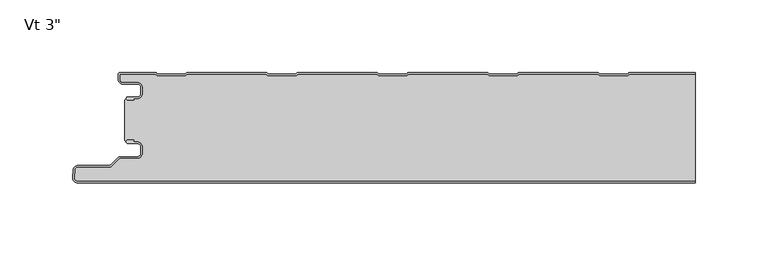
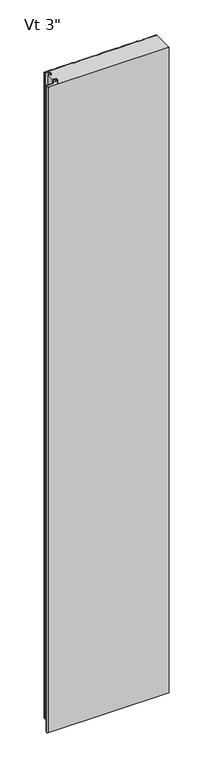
"""IFC4 building model written with IfcOpenShell, lengths in millimetres: plate geometry."""

from ifc_helpers import new_model, si_unit, point, frame, frame_2d, origin, origin_with_axes, place, context, project, spatial, polyline, circle_curve, trimmed, segment, composite_curve, outline, extrude, source, transform, mapped, element, save
from ifc_brep_helpers import plane_surface, cylinder_surface, revolved_surface, advanced_brep


def plate_366ad755(model_context):
    return source(origin(), model_context, "Body", "SolidModel", [
        advanced_brep(
        [(-194.568691, -17.0015405, 2400.0), (-195.5686883, -18.0015437, 2400.0), (-194.568691, -19.0015351, 2400.0), (-190.5684874, -19.0015351, 2400.0), (-190.5684874, -18.0015405, 2400.0), (-187.8762776, -18.0015405, 2400.0), (-184.5762819, -14.7015449, 2400.0), (-184.5762819, -10.3015536, 2400.0), (-187.8762774, -7.0015581, 2400.0), (-198.2962563, -7.0015581, 2400.0), (-200.0662505, -5.2315639, 2400.0), (-200.0662505, -1.0000163, 2400.0), (-175.5659738, -1.0000163, 2400.0), (-174.1803312, -2.2002553, 2400.0), (-154.8051649, -2.2002553, 2400.0), (-153.419532, -1.0000246, 2400.0), (-99.3661166, -1.0000246, 2400.0), (-97.9804836, -2.2002553, 2400.0), (-78.6053173, -2.2002553, 2400.0), (-77.2196844, -1.0000246, 2400.0), (-23.166269, -1.0000246, 2400.0), (-21.780636, -2.2002553, 2400.0), (-2.4054697, -2.2002553, 2400.0), (-1.0198368, -1.0000246, 2400.0), (53.0335786, -1.0000246, 2400.0), (54.4192116, -2.2002553, 2400.0), (73.7943779, -2.2002553, 2400.0), (75.1800108, -1.0000246, 2400.0), (129.2334262, -1.0000246, 2400.0), (130.6190592, -2.2002553, 2400.0), (149.9942255, -2.2002553, 2400.0), (151.3798584, -1.0000246, 2400.0), (196.5999998, -1.0000246, 2400.0), (196.5999998, -2.46e-05, 2400.0), (151.5290096, -2.46e-05, 2400.0), (150.6123927, -0.3418131, 2400.0), (149.6213451, -1.2002553, 2400.0), (130.9919396, -1.2002553, 2400.0), (130.000892, -0.3418131, 2400.0), (129.0842751, -2.46e-05, 2400.0), (75.329162, -2.46e-05, 2400.0), (74.4125451, -0.3418131, 2400.0), (73.4214975, -1.2002553, 2400.0), (54.792092, -1.2002553, 2400.0), (53.8010444, -0.3418131, 2400.0), (52.8844275, -2.46e-05, 2400.0), (-0.8706856, -2.46e-05, 2400.0), (-1.7873025, -0.3418131, 2400.0), (-2.7783501, -1.2002553, 2400.0), (-21.4077556, -1.2002553, 2400.0), (-22.3988032, -0.3418131, 2400.0), (-23.3154201, -2.46e-05, 2400.0), (-77.0705332, -2.46e-05, 2400.0), (-77.9871501, -0.3418131, 2400.0), (-78.9781977, -1.2002553, 2400.0), (-97.6076032, -1.2002553, 2400.0), (-98.5986508, -0.3418131, 2400.0), (-99.5152677, -2.46e-05, 2400.0), (-153.2703808, -2.46e-05, 2400.0), (-154.1869977, -0.3418131, 2400.0), (-155.1780453, -1.2002553, 2400.0), (-173.8074508, -1.2002553, 2400.0), (-174.7984984, -0.3418131, 2400.0), (-175.7152067, -2.46e-05, 2400.0), (-199.6662543, -1.63e-05, 2400.0), (-201.0662505, -1.4000124, 2400.0), (-201.0662505, -5.2315639, 2400.0), (-198.2962563, -8.0015581, 2400.0), (-187.8762774, -8.0015581, 2400.0), (-185.5762819, -10.3015536, 2400.0), (-185.5762819, -14.7015449, 2400.0), (-187.8762776, -17.0015405, 2400.0), (-194.568691, -17.0015405, 0.0), (-187.8762776, -17.0015405, 0.0), (-185.5762819, -14.7015449, 0.0), (-185.5762819, -10.3015536, 0.0), (-187.8762774, -8.0015581, 0.0), (-198.2962563, -8.0015581, 0.0), (-201.0662505, -5.2315639, 0.0), (-201.0662505, -1.4000124, 0.0), (-199.6662543, -1.63e-05, 0.0), (-175.7151153, -1.63e-05, 0.0), (-174.7984984, -0.3418131, 0.0), (-173.8074508, -1.2002553, 0.0), (-155.1780453, -1.2002553, 0.0), (-154.1869977, -0.3418131, 0.0), (-153.2703808, -2.46e-05, 0.0), (-99.5152677, -2.46e-05, 0.0), (-98.5986508, -0.3418131, 0.0), (-97.6076032, -1.2002553, 0.0), (-78.9781977, -1.2002553, 0.0), (-77.9871501, -0.3418131, 0.0), (-77.0705332, -2.46e-05, 0.0), (-23.3154201, -2.46e-05, 0.0), (-22.3988032, -0.3418131, 0.0), (-21.4077556, -1.2002553, 0.0), (-2.7783501, -1.2002553, 0.0), (-1.7873025, -0.3418131, 0.0), (-0.8706856, -2.46e-05, 0.0), (52.8844275, -2.46e-05, 0.0), (53.8010444, -0.3418131, 0.0), (54.792092, -1.2002553, 0.0), (73.4214975, -1.2002553, 0.0), (74.4125451, -0.3418131, 0.0), (75.329162, -2.46e-05, 0.0), (129.0842751, -2.46e-05, 0.0), (130.000892, -0.3418131, 0.0), (130.9919396, -1.2002553, 0.0), (149.6213451, -1.2002553, 0.0), (150.6123927, -0.3418131, 0.0), (151.5290096, -2.46e-05, 0.0), (196.5999998, -2.46e-05, 0.0), (196.5999998, -1.0000246, 0.0), (151.3798584, -1.0000246, 0.0), (149.9942255, -2.2002553, 0.0), (130.6190592, -2.2002553, 0.0), (129.2334262, -1.0000246, 0.0), (75.1800108, -1.0000246, 0.0), (73.7943779, -2.2002553, 0.0), (54.4192116, -2.2002553, 0.0), (53.0335786, -1.0000246, 0.0), (-1.0198368, -1.0000246, 0.0), (-2.4054697, -2.2002553, 0.0), (-21.780636, -2.2002553, 0.0), (-23.166269, -1.0000246, 0.0), (-77.2196844, -1.0000246, 0.0), (-78.6053173, -2.2002553, 0.0), (-97.9804836, -2.2002553, 0.0), (-99.3661166, -1.0000246, 0.0), (-153.419532, -1.0000246, 0.0), (-154.8051649, -2.2002553, 0.0), (-174.1803312, -2.2002553, 0.0), (-175.5659738, -1.0000163, 0.0), (-200.0662505, -1.0000163, 0.0), (-200.0662505, -5.2315639, 0.0), (-198.2962563, -7.0015581, 0.0), (-187.8762774, -7.0015581, 0.0), (-184.5762819, -10.3015536, 0.0), (-184.5762819, -14.7015449, 0.0), (-187.8762776, -18.0015405, 0.0), (-190.5684874, -18.0015405, 0.0), (-190.5684874, -19.0015351, 0.0), (-194.568691, -19.0015351, 0.0), (-195.5686882, -18.0015438, 0.0)],
        [
            (0, 1, circle_curve(frame((-194.568691, -18.0015378, 2400.0), z_axis=(0.0, 0.0, 1.0), x_axis=(1.0, 0.0, 0.0)), 0.9999973)),
            (1, 2, circle_curve(frame((-194.568691, -18.0015379, 2400.0), z_axis=(0.0, 0.0, 1.0), x_axis=(1.0, 0.0, 0.0)), 0.9999972)),
            (2, 3),
            (3, 4),
            (4, 5),
            (5, 6, circle_curve(frame((-187.8762776, -14.7015449, 2400.0), z_axis=(0.0, 0.0, 1.0), x_axis=(1.0, 0.0, 0.0)), 3.2999957)),
            (6, 7),
            (7, 8, circle_curve(frame((-187.8762774, -10.3015536, 2400.0), z_axis=(0.0, 0.0, 1.0), x_axis=(1.0, 0.0, 0.0)), 3.2999955)),
            (8, 9),
            (9, 10, circle_curve(frame((-198.2962563, -5.2315639, 2400.0), z_axis=(0.0, 0.0, -1.0), x_axis=(1.0, 0.0, 0.0)), 1.7699942)),
            (10, 11),
            (11, 12),
            (12, 13),
            (13, 14),
            (14, 15),
            (15, 16),
            (16, 17),
            (17, 18),
            (18, 19),
            (19, 20),
            (20, 21),
            (21, 22),
            (22, 23),
            (23, 24),
            (24, 25),
            (25, 26),
            (26, 27),
            (27, 28),
            (28, 29),
            (29, 30),
            (30, 31),
            (31, 32),
            (32, 33),
            (33, 34),
            (34, 35, circle_curve(frame((151.5290096, -1.4000218, 2400.0), z_axis=(0.0, 0.0, 1.0), x_axis=(1.0, 0.0, 0.0)), 1.3999972)),
            (35, 36),
            (36, 37),
            (37, 38),
            (38, 39, circle_curve(frame((129.0842751, -1.4000218, 2400.0), z_axis=(0.0, 0.0, 1.0), x_axis=(1.0, 0.0, 0.0)), 1.3999972)),
            (39, 40),
            (40, 41, circle_curve(frame((75.329162, -1.4000218, 2400.0), z_axis=(0.0, 0.0, 1.0), x_axis=(1.0, 0.0, 0.0)), 1.3999972)),
            (41, 42),
            (42, 43),
            (43, 44),
            (44, 45, circle_curve(frame((52.8844275, -1.4000218, 2400.0), z_axis=(0.0, 0.0, 1.0), x_axis=(1.0, 0.0, 0.0)), 1.3999972)),
            (45, 46),
            (46, 47, circle_curve(frame((-0.8706856, -1.4000218, 2400.0), z_axis=(0.0, 0.0, 1.0), x_axis=(1.0, 0.0, 0.0)), 1.3999972)),
            (47, 48),
            (48, 49),
            (49, 50),
            (50, 51, circle_curve(frame((-23.3154201, -1.4000218, 2400.0), z_axis=(0.0, 0.0, 1.0), x_axis=(1.0, 0.0, 0.0)), 1.3999972)),
            (51, 52),
            (52, 53, circle_curve(frame((-77.0705332, -1.4000218, 2400.0), z_axis=(0.0, 0.0, 1.0), x_axis=(1.0, 0.0, 0.0)), 1.3999972)),
            (53, 54),
            (54, 55),
            (55, 56),
            (56, 57, circle_curve(frame((-99.5152677, -1.4000218, 2400.0), z_axis=(0.0, 0.0, 1.0), x_axis=(1.0, 0.0, 0.0)), 1.3999972)),
            (57, 58),
            (58, 59, circle_curve(frame((-153.2703808, -1.4000218, 2400.0), z_axis=(0.0, 0.0, 1.0), x_axis=(1.0, 0.0, 0.0)), 1.3999972)),
            (59, 60),
            (60, 61),
            (61, 62),
            (62, 63, circle_curve(frame((-175.7151153, -1.4000218, 2400.0), z_axis=(0.0, 0.0, 1.0), x_axis=(1.0, 0.0, 0.0)), 1.3999972)),
            (63, 64),
            (64, 65, circle_curve(frame((-199.6662543, -1.4000124, 2400.0), z_axis=(0.0, 0.0, 1.0), x_axis=(1.0, 0.0, 0.0)), 1.3999962)),
            (65, 66),
            (66, 67, circle_curve(frame((-198.2962563, -5.2315639, 2400.0), z_axis=(0.0, 0.0, 1.0), x_axis=(1.0, 0.0, 0.0)), 2.7699942)),
            (67, 68),
            (68, 69, circle_curve(frame((-187.8762774, -10.3015536, 2400.0), z_axis=(0.0, 0.0, -1.0), x_axis=(1.0, 0.0, 0.0)), 2.2999955)),
            (69, 70),
            (70, 71, circle_curve(frame((-187.8762776, -14.7015449, 2400.0), z_axis=(0.0, 0.0, -1.0), x_axis=(1.0, 0.0, 0.0)), 2.2999957)),
            (71, 0),
            (72, 73),
            (73, 74, circle_curve(frame((-187.8762776, -14.7015449, 0.0), z_axis=(0.0, 0.0, 1.0), x_axis=(1.0, 0.0, 0.0)), 2.2999957)),
            (74, 75),
            (75, 76, circle_curve(frame((-187.8762774, -10.3015536, 0.0), z_axis=(0.0, 0.0, 1.0), x_axis=(1.0, 0.0, 0.0)), 2.2999955)),
            (76, 77),
            (77, 78, circle_curve(frame((-198.2962563, -5.2315639, 0.0), z_axis=(0.0, 0.0, -1.0), x_axis=(1.0, 0.0, 0.0)), 2.7699942)),
            (78, 79),
            (79, 80, circle_curve(frame((-199.6662543, -1.4000124, 0.0), z_axis=(0.0, 0.0, -1.0), x_axis=(1.0, 0.0, 0.0)), 1.3999962)),
            (80, 81),
            (81, 82, circle_curve(frame((-175.7151153, -1.4000218, 0.0), z_axis=(0.0, 0.0, -1.0), x_axis=(1.0, 0.0, 0.0)), 1.3999972)),
            (82, 83),
            (83, 84),
            (84, 85),
            (85, 86, circle_curve(frame((-153.2703808, -1.4000218, 0.0), z_axis=(0.0, 0.0, -1.0), x_axis=(1.0, 0.0, 0.0)), 1.3999972)),
            (86, 87),
            (87, 88, circle_curve(frame((-99.5152677, -1.4000218, 0.0), z_axis=(0.0, 0.0, -1.0), x_axis=(1.0, 0.0, 0.0)), 1.3999972)),
            (88, 89),
            (89, 90),
            (90, 91),
            (91, 92, circle_curve(frame((-77.0705332, -1.4000218, 0.0), z_axis=(0.0, 0.0, -1.0), x_axis=(1.0, 0.0, 0.0)), 1.3999972)),
            (92, 93),
            (93, 94, circle_curve(frame((-23.3154201, -1.4000218, 0.0), z_axis=(0.0, 0.0, -1.0), x_axis=(1.0, 0.0, 0.0)), 1.3999972)),
            (94, 95),
            (95, 96),
            (96, 97),
            (97, 98, circle_curve(frame((-0.8706856, -1.4000218, 0.0), z_axis=(0.0, 0.0, -1.0), x_axis=(1.0, 0.0, 0.0)), 1.3999972)),
            (98, 99),
            (99, 100, circle_curve(frame((52.8844275, -1.4000218, 0.0), z_axis=(0.0, 0.0, -1.0), x_axis=(1.0, 0.0, 0.0)), 1.3999972)),
            (100, 101),
            (101, 102),
            (102, 103),
            (103, 104, circle_curve(frame((75.329162, -1.4000218, 0.0), z_axis=(0.0, 0.0, -1.0), x_axis=(1.0, 0.0, 0.0)), 1.3999972)),
            (104, 105),
            (105, 106, circle_curve(frame((129.0842751, -1.4000218, 0.0), z_axis=(0.0, 0.0, -1.0), x_axis=(1.0, 0.0, 0.0)), 1.3999972)),
            (106, 107),
            (107, 108),
            (108, 109),
            (109, 110, circle_curve(frame((151.5290096, -1.4000218, 0.0), z_axis=(0.0, 0.0, -1.0), x_axis=(1.0, 0.0, 0.0)), 1.3999972)),
            (110, 111),
            (111, 112),
            (112, 113),
            (113, 114),
            (114, 115),
            (115, 116),
            (116, 117),
            (117, 118),
            (118, 119),
            (119, 120),
            (120, 121),
            (121, 122),
            (122, 123),
            (123, 124),
            (124, 125),
            (125, 126),
            (126, 127),
            (127, 128),
            (128, 129),
            (129, 130),
            (130, 131),
            (131, 132),
            (132, 133),
            (133, 134),
            (134, 135, circle_curve(frame((-198.2962563, -5.2315639, 0.0), z_axis=(0.0, 0.0, 1.0), x_axis=(1.0, 0.0, 0.0)), 1.7699942)),
            (135, 136),
            (136, 137, circle_curve(frame((-187.8762774, -10.3015536, 0.0), z_axis=(0.0, 0.0, -1.0), x_axis=(1.0, 0.0, 0.0)), 3.2999955)),
            (137, 138),
            (138, 139, circle_curve(frame((-187.8762776, -14.7015449, 0.0), z_axis=(0.0, 0.0, -1.0), x_axis=(1.0, 0.0, 0.0)), 3.2999957)),
            (139, 140),
            (140, 141),
            (141, 142),
            (142, 143, circle_curve(frame((-194.568691, -18.0015379, 0.0), z_axis=(0.0, 0.0, -1.0), x_axis=(1.0, 0.0, 0.0)), 0.9999972)),
            (143, 72, circle_curve(frame((-194.568691, -18.0015378, 0.0), z_axis=(0.0, 0.0, -1.0), x_axis=(1.0, 0.0, 0.0)), 0.9999973)),
            (32, 112),
            (111, 33),
            (71, 73),
            (72, 0),
            (70, 74),
            (69, 75),
            (68, 76),
            (67, 77),
            (66, 78),
            (65, 79),
            (64, 80),
            (63, 81),
            (62, 82),
            (61, 83),
            (60, 84),
            (59, 85),
            (58, 86),
            (57, 87),
            (56, 88),
            (55, 89),
            (54, 90),
            (53, 91),
            (52, 92),
            (51, 93),
            (50, 94),
            (49, 95),
            (48, 96),
            (47, 97),
            (46, 98),
            (45, 99),
            (44, 100),
            (43, 101),
            (42, 102),
            (41, 103),
            (40, 104),
            (39, 105),
            (38, 106),
            (37, 107),
            (36, 108),
            (35, 109),
            (34, 110),
            (31, 113),
            (30, 114),
            (29, 115),
            (28, 116),
            (27, 117),
            (26, 118),
            (25, 119),
            (24, 120),
            (23, 121),
            (22, 122),
            (21, 123),
            (20, 124),
            (19, 125),
            (18, 126),
            (17, 127),
            (16, 128),
            (15, 129),
            (14, 130),
            (13, 131),
            (12, 132),
            (11, 133),
            (10, 134),
            (9, 135),
            (8, 136),
            (7, 137),
            (6, 138),
            (5, 139),
            (4, 140),
            (3, 141),
            (2, 142),
            (1, 143),
        ],
        [
            plane_surface(frame((336.8000002, -2.46e-05, 2400.0), z_axis=(0.0, 0.0, 1.0), x_axis=(0.0, 1.0, 0.0))),
            plane_surface(frame((336.8000002, -2.46e-05, 0.0), z_axis=(0.0, 0.0, -1.0), x_axis=(0.0, 1.0, 0.0))),
            plane_surface(frame((196.5999998, -86.2000246, 2400.0), z_axis=(1.0, 0.0, 0.0), x_axis=(0.0, 0.0, -1.0))),
            plane_surface(frame((-194.568691, -17.0015405, 2400.0), z_axis=(0.0, 1.0, 0.0), x_axis=(0.0, 0.0, -1.0))),
            revolved_surface(polyline([(-185.5762819, -14.7015449, 0.0), (-185.5762819, -14.7015449, 2400.0)]), (-187.8762776, -14.7015449, 2400.0), (0.0, 0.0, -1.0)),
            plane_surface(frame((-185.5762819, -14.7015449, 2400.0), z_axis=(-1.0, 0.0, 0.0), x_axis=(0.0, 0.0, -1.0))),
            revolved_surface(polyline([(-185.5762819, -10.3015536, 0.0), (-185.5762819, -10.3015536, 2400.0)]), (-187.8762774, -10.3015536, 2400.0), (0.0, 0.0, -1.0)),
            plane_surface(frame((-187.8762774, -8.0015581, 2400.0), z_axis=(0.0, -1.0, 0.0), x_axis=(0.0, 0.0, -1.0))),
            cylinder_surface(frame((-198.2962563, -5.2315639, 2400.0), z_axis=(0.0, 0.0, 1.0), x_axis=(1.0, 0.0, 0.0)), 2.7699942),
            plane_surface(frame((-201.0662505, -5.2315639, 2400.0), z_axis=(-1.0, 0.0, 0.0), x_axis=(0.0, 0.0, -1.0))),
            cylinder_surface(frame((-199.6662543, -1.4000124, 2400.0), z_axis=(0.0, 0.0, 1.0), x_axis=(1.0, 0.0, 0.0)), 1.3999962),
            plane_surface(frame((-199.6662543, -1.63e-05, 2400.0), z_axis=(0.0, 1.0, 0.0), x_axis=(0.0, 0.0, -1.0))),
            cylinder_surface(frame((-175.7151153, -1.4000218, 2400.0), z_axis=(0.0, 0.0, 1.0), x_axis=(1.0, 0.0, 0.0)), 1.3999972),
            plane_surface(frame((-174.7984984, -0.3418131, 2400.0), z_axis=(0.6547276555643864, 0.7558648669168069, 0.0), x_axis=(0.0, 0.0, -1.0))),
            plane_surface(frame((-164.4927481, -1.2002553, 2400.0), z_axis=(0.0, 1.0, 0.0), x_axis=(0.0, 0.0, -1.0))),
            plane_surface(frame((-155.1780453, -1.2002553, 2400.0), z_axis=(-0.6547276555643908, 0.7558648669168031, 0.0), x_axis=(0.0, 0.0, -1.0))),
            cylinder_surface(frame((-153.2703808, -1.4000218, 2400.0), z_axis=(0.0, 0.0, 1.0), x_axis=(1.0, 0.0, 0.0)), 1.3999972),
            plane_surface(frame((-153.2703808, -2.46e-05, 2400.0), z_axis=(0.0, 1.0, 0.0), x_axis=(0.0, 0.0, -1.0))),
            cylinder_surface(frame((-99.5152677, -1.4000218, 2400.0), z_axis=(0.0, 0.0, 1.0), x_axis=(1.0, 0.0, 0.0)), 1.3999972),
            plane_surface(frame((-98.5986508, -0.3418131, 2400.0), z_axis=(0.6547276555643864, 0.7558648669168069, 0.0), x_axis=(0.0, 0.0, -1.0))),
            plane_surface(frame((-88.2929005, -1.2002553, 2400.0), z_axis=(0.0, 1.0, 0.0), x_axis=(0.0, 0.0, -1.0))),
            plane_surface(frame((-78.9781977, -1.2002553, 2400.0), z_axis=(-0.6547276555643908, 0.7558648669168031, 0.0), x_axis=(0.0, 0.0, -1.0))),
            cylinder_surface(frame((-77.0705332, -1.4000218, 2400.0), z_axis=(0.0, 0.0, 1.0), x_axis=(1.0, 0.0, 0.0)), 1.3999972),
            plane_surface(frame((-77.0705332, -2.46e-05, 2400.0), z_axis=(0.0, 1.0, 0.0), x_axis=(0.0, 0.0, -1.0))),
            cylinder_surface(frame((-23.3154201, -1.4000218, 2400.0), z_axis=(0.0, 0.0, 1.0), x_axis=(1.0, 0.0, 0.0)), 1.3999972),
            plane_surface(frame((-22.3988032, -0.3418131, 2400.0), z_axis=(0.6547276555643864, 0.7558648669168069, 0.0), x_axis=(0.0, 0.0, -1.0))),
            plane_surface(frame((-12.0930529, -1.2002553, 2400.0), z_axis=(0.0, 1.0, 0.0), x_axis=(0.0, 0.0, -1.0))),
            plane_surface(frame((-2.7783501, -1.2002553, 2400.0), z_axis=(-0.6547276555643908, 0.7558648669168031, 0.0), x_axis=(0.0, 0.0, -1.0))),
            cylinder_surface(frame((-0.8706856, -1.4000218, 2400.0), z_axis=(0.0, 0.0, 1.0), x_axis=(1.0, 0.0, 0.0)), 1.3999972),
            plane_surface(frame((-0.8706856, -2.46e-05, 2400.0), z_axis=(0.0, 1.0, 0.0), x_axis=(0.0, 0.0, -1.0))),
            cylinder_surface(frame((52.8844275, -1.4000218, 2400.0), z_axis=(0.0, 0.0, 1.0), x_axis=(1.0, 0.0, 0.0)), 1.3999972),
            plane_surface(frame((53.8010444, -0.3418131, 2400.0), z_axis=(0.6547276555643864, 0.7558648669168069, 0.0), x_axis=(0.0, 0.0, -1.0))),
            plane_surface(frame((64.1067947, -1.2002553, 2400.0), z_axis=(0.0, 1.0, 0.0), x_axis=(0.0, 0.0, -1.0))),
            plane_surface(frame((73.4214975, -1.2002553, 2400.0), z_axis=(-0.6547276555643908, 0.7558648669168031, 0.0), x_axis=(0.0, 0.0, -1.0))),
            cylinder_surface(frame((75.329162, -1.4000218, 2400.0), z_axis=(0.0, 0.0, 1.0), x_axis=(1.0, 0.0, 0.0)), 1.3999972),
            plane_surface(frame((75.329162, -2.46e-05, 2400.0), z_axis=(0.0, 1.0, 0.0), x_axis=(0.0, 0.0, -1.0))),
            cylinder_surface(frame((129.0842751, -1.4000218, 2400.0), z_axis=(0.0, 0.0, 1.0), x_axis=(1.0, 0.0, 0.0)), 1.3999972),
            plane_surface(frame((130.000892, -0.3418131, 2400.0), z_axis=(0.6547276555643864, 0.7558648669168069, 0.0), x_axis=(0.0, 0.0, -1.0))),
            plane_surface(frame((140.3066423, -1.2002553, 2400.0), z_axis=(0.0, 1.0, 0.0), x_axis=(0.0, 0.0, -1.0))),
            plane_surface(frame((149.6213451, -1.2002553, 2400.0), z_axis=(-0.6547276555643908, 0.7558648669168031, 0.0), x_axis=(0.0, 0.0, -1.0))),
            cylinder_surface(frame((151.5290096, -1.4000218, 2400.0), z_axis=(0.0, 0.0, 1.0), x_axis=(1.0, 0.0, 0.0)), 1.3999972),
            plane_surface(frame((151.5290096, -2.46e-05, 2400.0), z_axis=(0.0, 1.0, 0.0), x_axis=(0.0, 0.0, -1.0))),
            plane_surface(frame((205.4332738, -1.0000246, 2400.0), z_axis=(0.0, -1.0, 0.0), x_axis=(0.0, 0.0, -1.0))),
            plane_surface(frame((151.3798584, -1.0000246, 2400.0), z_axis=(0.6547276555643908, -0.7558648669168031, 0.0), x_axis=(0.0, 0.0, -1.0))),
            plane_surface(frame((149.9942255, -2.2002553, 2400.0), z_axis=(0.0, -1.0, 0.0), x_axis=(0.0, 0.0, -1.0))),
            plane_surface(frame((130.6190592, -2.2002553, 2400.0), z_axis=(-0.6547276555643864, -0.7558648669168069, 0.0), x_axis=(0.0, 0.0, -1.0))),
            plane_surface(frame((129.2334262, -1.0000246, 2400.0), z_axis=(0.0, -1.0, 0.0), x_axis=(0.0, 0.0, -1.0))),
            plane_surface(frame((75.1800108, -1.0000246, 2400.0), z_axis=(0.6547276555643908, -0.7558648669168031, 0.0), x_axis=(0.0, 0.0, -1.0))),
            plane_surface(frame((73.7943779, -2.2002553, 2400.0), z_axis=(0.0, -1.0, 0.0), x_axis=(0.0, 0.0, -1.0))),
            plane_surface(frame((54.4192116, -2.2002553, 2400.0), z_axis=(-0.6547276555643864, -0.7558648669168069, 0.0), x_axis=(0.0, 0.0, -1.0))),
            plane_surface(frame((53.0335786, -1.0000246, 2400.0), z_axis=(0.0, -1.0, 0.0), x_axis=(0.0, 0.0, -1.0))),
            plane_surface(frame((-1.0198368, -1.0000246, 2400.0), z_axis=(0.6547276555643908, -0.7558648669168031, 0.0), x_axis=(0.0, 0.0, -1.0))),
            plane_surface(frame((-2.4054697, -2.2002553, 2400.0), z_axis=(0.0, -1.0, 0.0), x_axis=(0.0, 0.0, -1.0))),
            plane_surface(frame((-21.780636, -2.2002553, 2400.0), z_axis=(-0.6547276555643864, -0.7558648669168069, 0.0), x_axis=(0.0, 0.0, -1.0))),
            plane_surface(frame((-23.166269, -1.0000246, 2400.0), z_axis=(0.0, -1.0, 0.0), x_axis=(0.0, 0.0, -1.0))),
            plane_surface(frame((-77.2196844, -1.0000246, 2400.0), z_axis=(0.6547276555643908, -0.7558648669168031, 0.0), x_axis=(0.0, 0.0, -1.0))),
            plane_surface(frame((-78.6053173, -2.2002553, 2400.0), z_axis=(0.0, -1.0, 0.0), x_axis=(0.0, 0.0, -1.0))),
            plane_surface(frame((-97.9804836, -2.2002553, 2400.0), z_axis=(-0.6547276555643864, -0.7558648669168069, 0.0), x_axis=(0.0, 0.0, -1.0))),
            plane_surface(frame((-99.3661166, -1.0000246, 2400.0), z_axis=(0.0, -1.0, 0.0), x_axis=(0.0, 0.0, -1.0))),
            plane_surface(frame((-153.419532, -1.0000246, 2400.0), z_axis=(0.6547276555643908, -0.7558648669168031, 0.0), x_axis=(0.0, 0.0, -1.0))),
            plane_surface(frame((-154.8051649, -2.2002553, 2400.0), z_axis=(0.0, -1.0, 0.0), x_axis=(0.0, 0.0, -1.0))),
            plane_surface(frame((-174.1803312, -2.2002553, 2400.0), z_axis=(-0.6547276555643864, -0.7558648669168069, 0.0), x_axis=(0.0, 0.0, -1.0))),
            plane_surface(frame((-175.5659738, -1.0000163, 2400.0), z_axis=(0.0, -1.0, 0.0), x_axis=(0.0, 0.0, -1.0))),
            plane_surface(frame((-200.0662505, -1.0000163, 2400.0), z_axis=(1.0, 0.0, 0.0), x_axis=(0.0, 0.0, -1.0))),
            revolved_surface(polyline([(-196.5262621, -5.2315639, 0.0), (-196.5262621, -5.2315639, 2400.0)]), (-198.2962563, -5.2315639, 2400.0), (0.0, 0.0, -1.0)),
            plane_surface(frame((-198.2962563, -7.0015581, 2400.0), z_axis=(0.0, 1.0, 0.0), x_axis=(0.0, 0.0, -1.0))),
            cylinder_surface(frame((-187.8762774, -10.3015536, 2400.0), z_axis=(0.0, 0.0, 1.0), x_axis=(1.0, 0.0, 0.0)), 3.2999955),
            plane_surface(frame((-184.5762819, -10.3015536, 2400.0), z_axis=(1.0, 0.0, 0.0), x_axis=(0.0, 0.0, -1.0))),
            cylinder_surface(frame((-187.8762776, -14.7015449, 2400.0), z_axis=(0.0, 0.0, 1.0), x_axis=(1.0, 0.0, 0.0)), 3.2999957),
            plane_surface(frame((-187.8762776, -18.0015405, 2400.0), z_axis=(0.0, -1.0, 0.0), x_axis=(0.0, 0.0, -1.0))),
            plane_surface(frame((-190.5684874, -18.0015405, 2400.0), z_axis=(1.0, 0.0, 0.0), x_axis=(0.0, 0.0, -1.0))),
            plane_surface(frame((-190.5684874, -19.0015351, 2400.0), z_axis=(0.0, -1.0, 0.0), x_axis=(0.0, 0.0, -1.0))),
            cylinder_surface(frame((-194.568691, -18.0015379, 2400.0), z_axis=(0.0, 0.0, 1.0), x_axis=(1.0, 0.0, 0.0)), 0.9999972),
            cylinder_surface(frame((-194.568691, -18.0015378, 2400.0), z_axis=(0.0, 0.0, 1.0), x_axis=(1.0, 0.0, 0.0)), 0.9999973),
        ],
        [
            (0, [[1, 2, 3, 4, 5, 6, 7, 8, 9, 10, 11, 12, 13, 14, 15, 16, 17, 18, 19, 20, 21, 22, 23, 24, 25, 26, 27, 28, 29, 30, 31, 32, 33, 34, 35, 36, 37, 38, 39, 40, 41, 42, 43, 44, 45, 46, 47, 48, 49, 50, 51, 52, 53, 54, 55, 56, 57, 58, 59, 60, 61, 62, 63, 64, 65, 66, 67, 68, 69, 70, 71, 72]]),
            (1, [[73, 74, 75, 76, 77, 78, 79, 80, 81, 82, 83, 84, 85, 86, 87, 88, 89, 90, 91, 92, 93, 94, 95, 96, 97, 98, 99, 100, 101, 102, 103, 104, 105, 106, 107, 108, 109, 110, 111, 112, 113, 114, 115, 116, 117, 118, 119, 120, 121, 122, 123, 124, 125, 126, 127, 128, 129, 130, 131, 132, 133, 134, 135, 136, 137, 138, 139, 140, 141, 142, 143, 144]]),
            (2, [[145, -112, 146, -33]]),
            (3, [[147, -73, 148, -72]]),
            (4, [[149, -74, -147, -71]]),
            (5, [[150, -75, -149, -70]]),
            (6, [[151, -76, -150, -69]]),
            (7, [[152, -77, -151, -68]]),
            (8, [[153, -78, -152, -67]]),
            (9, [[154, -79, -153, -66]]),
            (10, [[155, -80, -154, -65]]),
            (11, [[156, -81, -155, -64]]),
            (12, [[157, -82, -156, -63]]),
            (13, [[158, -83, -157, -62]]),
            (14, [[159, -84, -158, -61]]),
            (15, [[160, -85, -159, -60]]),
            (16, [[161, -86, -160, -59]]),
            (17, [[162, -87, -161, -58]]),
            (18, [[163, -88, -162, -57]]),
            (19, [[164, -89, -163, -56]]),
            (20, [[165, -90, -164, -55]]),
            (21, [[166, -91, -165, -54]]),
            (22, [[167, -92, -166, -53]]),
            (23, [[168, -93, -167, -52]]),
            (24, [[169, -94, -168, -51]]),
            (25, [[170, -95, -169, -50]]),
            (26, [[171, -96, -170, -49]]),
            (27, [[172, -97, -171, -48]]),
            (28, [[173, -98, -172, -47]]),
            (29, [[174, -99, -173, -46]]),
            (30, [[175, -100, -174, -45]]),
            (31, [[176, -101, -175, -44]]),
            (32, [[177, -102, -176, -43]]),
            (33, [[178, -103, -177, -42]]),
            (34, [[179, -104, -178, -41]]),
            (35, [[180, -105, -179, -40]]),
            (36, [[181, -106, -180, -39]]),
            (37, [[182, -107, -181, -38]]),
            (38, [[183, -108, -182, -37]]),
            (39, [[184, -109, -183, -36]]),
            (40, [[185, -110, -184, -35]]),
            (41, [[-34, -146, -111, -185]]),
            (42, [[-113, -145, -32, 186]]),
            (43, [[187, -114, -186, -31]]),
            (44, [[188, -115, -187, -30]]),
            (45, [[189, -116, -188, -29]]),
            (46, [[190, -117, -189, -28]]),
            (47, [[191, -118, -190, -27]]),
            (48, [[192, -119, -191, -26]]),
            (49, [[193, -120, -192, -25]]),
            (50, [[194, -121, -193, -24]]),
            (51, [[195, -122, -194, -23]]),
            (52, [[196, -123, -195, -22]]),
            (53, [[197, -124, -196, -21]]),
            (54, [[198, -125, -197, -20]]),
            (55, [[199, -126, -198, -19]]),
            (56, [[200, -127, -199, -18]]),
            (57, [[201, -128, -200, -17]]),
            (58, [[202, -129, -201, -16]]),
            (59, [[203, -130, -202, -15]]),
            (60, [[204, -131, -203, -14]]),
            (61, [[205, -132, -204, -13]]),
            (62, [[206, -133, -205, -12]]),
            (63, [[207, -134, -206, -11]]),
            (64, [[208, -135, -207, -10]]),
            (65, [[209, -136, -208, -9]]),
            (66, [[210, -137, -209, -8]]),
            (67, [[211, -138, -210, -7]]),
            (68, [[212, -139, -211, -6]]),
            (69, [[213, -140, -212, -5]]),
            (70, [[214, -141, -213, -4]]),
            (71, [[215, -142, -214, -3]]),
            (72, [[216, -143, -215, -2]]),
            (73, [[-148, -144, -216, -1]]),
        ],
    ),
        extrude(outline(composite_curve([segment(polyline([(-232.6087619, -72.3191544), (-232.1690674, -67.2951077)]), True, "CONTINUOUS"), segment(trimmed(circle_curve(frame_2d((-228.5198391, -67.9059089)), 3.6999926), [point((-232.1690674, -67.2951077))], [point((-228.5198391, -64.2059163))], False, "CARTESIAN"), True, "CONTINUOUS"), segment(polyline([(-228.5198391, -64.2059163), (-207.3773995, -64.2059163)]), True, "CONTINUOUS"), segment(trimmed(circle_curve(frame_2d((-207.3773995, -62.9059189)), 1.2999974), [point((-207.3773995, -64.2059163))], [point((-206.4581626, -63.8251558))], True, "CARTESIAN"), True, "CONTINUOUS"), segment(polyline([(-206.4581626, -63.8251558), (-201.6297451, -58.9967384)]), True, "CONTINUOUS"), segment(trimmed(circle_curve(frame_2d((-199.7205606, -60.9059229)), 2.6999946), [point((-201.6297451, -58.9967384))], [point((-199.7205606, -58.2059283))], False, "CARTESIAN"), True, "CONTINUOUS"), segment(polyline([(-199.7205606, -58.2059283), (-187.9096715, -58.2059283)]), True, "CONTINUOUS"), segment(trimmed(circle_curve(frame_2d((-187.9096715, -55.855933)), 2.3499953), [point((-187.9096715, -58.2059283))], [point((-185.5596762, -55.855933))], True, "CARTESIAN"), True, "CONTINUOUS"), segment(polyline([(-185.5596762, -55.855933), (-185.5596762, -51.4559418)]), True, "CONTINUOUS"), segment(trimmed(circle_curve(frame_2d((-187.9096715, -51.4559418)), 2.3499953), [point((-185.5596762, -51.4559418))], [point((-187.9096715, -49.1059465))], True, "CARTESIAN"), True, "CONTINUOUS"), segment(polyline([(-187.9096715, -49.1059465), (-194.4289777, -49.1059465)]), True, "CONTINUOUS"), segment(trimmed(circle_curve(frame_2d((-194.3686906, -47.9074642)), 1.1999976), [point((-194.4289777, -49.1059465))], [point((-195.5683, -47.8769423))], False, "CARTESIAN"), True, "CONTINUOUS"), segment(trimmed(circle_curve(frame_2d((-194.3686906, -47.9074642)), 1.1999976), [point((-195.5683, -47.8769423))], [point((-194.367176, -46.7074676))], False, "CARTESIAN"), True, "CONTINUOUS"), segment(polyline([(-194.367176, -46.7074676), (-190.6087826, -46.7074676), (-190.6087826, -48.1059465), (-187.9096715, -48.1059465)]), True, "CONTINUOUS"), segment(trimmed(circle_curve(frame_2d((-187.9096715, -51.4559418)), 3.3499953), [point((-187.9096715, -48.1059465))], [point((-184.5596762, -51.4559418))], False, "CARTESIAN"), True, "CONTINUOUS"), segment(polyline([(-184.5596762, -51.4559418), (-184.5596762, -55.855933)]), True, "CONTINUOUS"), segment(trimmed(circle_curve(frame_2d((-187.9096715, -55.855933)), 3.3499953), [point((-184.5596762, -55.855933))], [point((-187.9096715, -59.2059283))], False, "CARTESIAN"), True, "CONTINUOUS"), segment(polyline([(-187.9096715, -59.2059283), (-199.7205606, -59.2059283)]), True, "CONTINUOUS"), segment(trimmed(circle_curve(frame_2d((-199.7205606, -60.9059229)), 1.6999946), [point((-199.7205606, -59.2059283))], [point((-200.9226383, -59.7038451))], True, "CARTESIAN"), True, "CONTINUOUS"), segment(polyline([(-200.9226383, -59.7038451), (-206.4247094, -65.2059163), (-228.5198391, -65.2059163)]), True, "CONTINUOUS"), segment(trimmed(circle_curve(frame_2d((-228.5198391, -67.9059089)), 2.6999926), [point((-228.5198391, -65.2059163))], [point((-231.1765707, -67.4245182))], True, "CARTESIAN"), True, "CONTINUOUS"), segment(polyline([(-231.1765707, -67.4245182), (-231.6125697, -72.4063391)]), True, "CONTINUOUS"), segment(trimmed(circle_curve(frame_2d((-229.0521175, -72.6304248)), 2.5702393), [point((-231.6125697, -72.4063391))], [point((-229.1094458, -75.2000246))], True, "CARTESIAN"), True, "CONTINUOUS"), segment(polyline([(-229.1094458, -75.2000246), (196.5999998, -75.2000246), (196.5999998, -76.2000246), (-229.1196851, -76.2000246)]), True, "CONTINUOUS"), segment(trimmed(circle_curve(frame_2d((-229.0521175, -72.6304248)), 3.5702393), [point((-229.1196851, -76.2000246))], [point((-232.6087619, -72.3191544))], False, "CARTESIAN"), True, "CONTINUOUS")], self_intersect=False)), origin_with_axes(), (0.0, 0.0, 1.0), 2400.0),
        advanced_brep(
        [(-195.5683, -47.8708996, 2400.0), (-194.367176, -46.7014249, 2400.0), (-190.6087826, -46.7014249, 2400.0), (-190.6087826, -48.0999038, 2400.0), (-187.9096715, -48.0999038, 2400.0), (-184.5596762, -51.4498991, 2400.0), (-184.5596762, -55.8498903, 2400.0), (-187.9096715, -59.1998856, 2400.0), (-199.7205606, -59.1998856, 2400.0), (-200.9226383, -59.6978025, 2400.0), (-206.4247094, -65.1998736, 2400.0), (-228.5198391, -65.1998736, 2400.0), (-231.1765707, -67.4184756, 2400.0), (-231.6125697, -72.4002964, 2400.0), (-229.0521175, -75.1946214, 2400.0), (196.5999998, -75.2000246, 2400.0), (196.5999998, -1.0000246, 2400.0), (151.3798585, -1.0000246, 2400.0), (149.9942255, -2.2002553, 2400.0), (130.6190592, -2.2002553, 2400.0), (129.2334263, -1.0000246, 2400.0), (75.1800109, -1.0000246, 2400.0), (73.7943779, -2.2002553, 2400.0), (54.4192116, -2.2002553, 2400.0), (53.0335787, -1.0000246, 2400.0), (-1.0198367, -1.0000246, 2400.0), (-2.4054697, -2.2002553, 2400.0), (-21.780636, -2.2002553, 2400.0), (-23.1662689, -1.0000246, 2400.0), (-77.2196843, -1.0000246, 2400.0), (-78.6053173, -2.2002553, 2400.0), (-97.9804836, -2.2002553, 2400.0), (-99.3661165, -1.0000246, 2400.0), (-153.4195319, -1.0000246, 2400.0), (-154.8051649, -2.2002553, 2400.0), (-174.1803312, -2.2002553, 2400.0), (-175.5659738, -1.0000163, 2400.0), (-200.0662504, -1.0000163, 2400.0), (-200.0662504, -5.2315636, 2400.0), (-198.2962562, -7.0015578, 2400.0), (-187.8762777, -7.0015578, 2400.0), (-184.5762818, -10.3015536, 2400.0), (-184.5762818, -14.7015449, 2400.0), (-187.8762775, -18.0015405, 2400.0), (-190.5684873, -18.0015405, 2400.0), (-190.5684873, -19.0015351, 2400.0), (-194.568691, -19.0015351, 2400.0), (-195.5686882, -18.0015438, 2400.0), (-196.5999998, -19.0328554, 2400.0), (-196.5999998, -46.8391997, 2400.0), (-195.5683, -47.8708996, 0.0), (-196.5999998, -46.8391997, 0.0), (-196.5999998, -19.0328554, 0.0), (-195.5686882, -18.0015438, 0.0), (-194.568691, -19.0015351, 0.0), (-190.5684873, -19.0015351, 0.0), (-190.5684873, -18.0015405, 0.0), (-187.8762775, -18.0015405, 0.0), (-184.5762818, -14.7015449, 0.0), (-184.5762818, -10.3015536, 0.0), (-187.8762777, -7.0015578, 0.0), (-198.2962562, -7.0015578, 0.0), (-200.0662504, -5.2315636, 0.0), (-200.0662504, -1.0000163, 0.0), (-175.5659738, -1.0000163, 0.0), (-174.1803312, -2.2002553, 0.0), (-154.8051649, -2.2002553, 0.0), (-153.4195319, -1.0000246, 0.0), (-99.3661165, -1.0000246, 0.0), (-97.9804836, -2.2002553, 0.0), (-78.6053173, -2.2002553, 0.0), (-77.2196843, -1.0000246, 0.0), (-23.1662689, -1.0000246, 0.0), (-21.780636, -2.2002553, 0.0), (-2.4054697, -2.2002553, 0.0), (-1.0198367, -1.0000246, 0.0), (53.0335787, -1.0000246, 0.0), (54.4192116, -2.2002553, 0.0), (73.7943779, -2.2002553, 0.0), (75.1800109, -1.0000246, 0.0), (129.2334263, -1.0000246, 0.0), (130.6190592, -2.2002553, 0.0), (149.9942255, -2.2002553, 0.0), (151.3798585, -1.0000246, 0.0), (196.5999998, -1.0000246, 0.0), (196.5999998, -75.2000246, 0.0), (-229.0521175, -75.2000246, 0.0), (-231.6125697, -72.4002964, 0.0), (-231.1765707, -67.4184756, 0.0), (-228.5198391, -65.1998736, 0.0), (-206.4247094, -65.1998736, 0.0), (-200.9226383, -59.6978025, 0.0), (-199.7205606, -59.1998856, 0.0), (-187.9096715, -59.1998856, 0.0), (-184.5596762, -55.8498903, 0.0), (-184.5596762, -51.4498991, 0.0), (-187.9096715, -48.0999038, 0.0), (-190.6087826, -48.0999038, 0.0), (-190.6087826, -46.7014249, 0.0), (-194.367176, -46.7014249, 0.0)],
        [
            (0, 1, circle_curve(frame((-194.3686906, -47.9014215, 2400.0), z_axis=(0.0, 0.0, -1.0), x_axis=(-1.0, 0.0, 0.0)), 1.1999976)),
            (1, 2),
            (2, 3),
            (3, 4),
            (4, 5, circle_curve(frame((-187.9096715, -51.4498991, 2400.0), z_axis=(0.0, 0.0, -1.0), x_axis=(-1.0, 0.0, 0.0)), 3.3499953)),
            (5, 6),
            (6, 7, circle_curve(frame((-187.9096715, -55.8498903, 2400.0), z_axis=(0.0, 0.0, -1.0), x_axis=(-1.0, 0.0, 0.0)), 3.3499953)),
            (7, 8),
            (8, 9, circle_curve(frame((-199.7205606, -60.8998802, 2400.0), z_axis=(0.0, 0.0, 1.0), x_axis=(-1.0, 0.0, 0.0)), 1.6999946)),
            (9, 10),
            (10, 11),
            (11, 12, circle_curve(frame((-228.5198391, -67.8998662, 2400.0), z_axis=(0.0, 0.0, 1.0), x_axis=(-1.0, 0.0, 0.0)), 2.6999926)),
            (12, 13),
            (13, 14, circle_curve(frame((-229.0521175, -72.6243821, 2400.0), z_axis=(0.0, 0.0, 1.0), x_axis=(-1.0, 0.0, 0.0)), 2.5702393)),
            (14, 15),
            (15, 16),
            (16, 17),
            (17, 18),
            (18, 19),
            (19, 20),
            (20, 21),
            (21, 22),
            (22, 23),
            (23, 24),
            (24, 25),
            (25, 26),
            (26, 27),
            (27, 28),
            (28, 29),
            (29, 30),
            (30, 31),
            (31, 32),
            (32, 33),
            (33, 34),
            (34, 35),
            (35, 36),
            (36, 37),
            (37, 38),
            (38, 39, circle_curve(frame((-198.2962562, -5.2315636, 2400.0), z_axis=(0.0, 0.0, 1.0), x_axis=(-1.0, 0.0, 0.0)), 1.7699942)),
            (39, 40),
            (40, 41, circle_curve(frame((-187.8762777, -10.3015536, 2400.0), z_axis=(0.0, 0.0, -1.0), x_axis=(-1.0, 0.0, 0.0)), 3.2999959)),
            (41, 42),
            (42, 43, circle_curve(frame((-187.8762775, -14.7015449, 2400.0), z_axis=(0.0, 0.0, -1.0), x_axis=(-1.0, 0.0, 0.0)), 3.2999957)),
            (43, 44),
            (44, 45),
            (45, 46),
            (46, 47, circle_curve(frame((-194.568691, -18.0015379, 2400.0), z_axis=(0.0, 0.0, -1.0), x_axis=(-1.0, 0.0, 0.0)), 0.9999972)),
            (47, 48),
            (48, 49),
            (49, 0),
            (50, 51),
            (51, 52),
            (52, 53),
            (53, 54, circle_curve(frame((-194.568691, -18.0015379, 0.0), z_axis=(0.0, 0.0, 1.0), x_axis=(-1.0, 0.0, 0.0)), 0.9999972)),
            (54, 55),
            (55, 56),
            (56, 57),
            (57, 58, circle_curve(frame((-187.8762775, -14.7015449, 0.0), z_axis=(0.0, 0.0, 1.0), x_axis=(-1.0, 0.0, 0.0)), 3.2999957)),
            (58, 59),
            (59, 60, circle_curve(frame((-187.8762777, -10.3015536, 0.0), z_axis=(0.0, 0.0, 1.0), x_axis=(-1.0, 0.0, 0.0)), 3.2999959)),
            (60, 61),
            (61, 62, circle_curve(frame((-198.2962562, -5.2315636, 0.0), z_axis=(0.0, 0.0, -1.0), x_axis=(-1.0, 0.0, 0.0)), 1.7699942)),
            (62, 63),
            (63, 64),
            (64, 65),
            (65, 66),
            (66, 67),
            (67, 68),
            (68, 69),
            (69, 70),
            (70, 71),
            (71, 72),
            (72, 73),
            (73, 74),
            (74, 75),
            (75, 76),
            (76, 77),
            (77, 78),
            (78, 79),
            (79, 80),
            (80, 81),
            (81, 82),
            (82, 83),
            (83, 84),
            (84, 85),
            (85, 86),
            (86, 87, circle_curve(frame((-229.0521175, -72.6243821, 0.0), z_axis=(0.0, 0.0, -1.0), x_axis=(-1.0, 0.0, 0.0)), 2.5702393)),
            (87, 88),
            (88, 89, circle_curve(frame((-228.5198391, -67.8998662, 0.0), z_axis=(0.0, 0.0, -1.0), x_axis=(-1.0, 0.0, 0.0)), 2.6999926)),
            (89, 90),
            (90, 91),
            (91, 92, circle_curve(frame((-199.7205606, -60.8998802, 0.0), z_axis=(0.0, 0.0, -1.0), x_axis=(-1.0, 0.0, 0.0)), 1.6999946)),
            (92, 93),
            (93, 94, circle_curve(frame((-187.9096715, -55.8498903, 0.0), z_axis=(0.0, 0.0, 1.0), x_axis=(-1.0, 0.0, 0.0)), 3.3499953)),
            (94, 95),
            (95, 96, circle_curve(frame((-187.9096715, -51.4498991, 0.0), z_axis=(0.0, 0.0, 1.0), x_axis=(-1.0, 0.0, 0.0)), 3.3499953)),
            (96, 97),
            (97, 98),
            (98, 99),
            (99, 50, circle_curve(frame((-194.3686906, -47.9014215, 0.0), z_axis=(0.0, 0.0, 1.0), x_axis=(-1.0, 0.0, 0.0)), 1.1999976)),
            (15, 85),
            (84, 16),
            (49, 51),
            (50, 0),
            (48, 52),
            (14, 86),
            (13, 87),
            (12, 88),
            (11, 89),
            (10, 90),
            (9, 91),
            (8, 92),
            (7, 93),
            (6, 94),
            (5, 95),
            (4, 96),
            (3, 97),
            (2, 98),
            (1, 99),
            (47, 53),
            (46, 54),
            (45, 55),
            (44, 56),
            (43, 57),
            (42, 58),
            (41, 59),
            (40, 60),
            (39, 61),
            (38, 62),
            (37, 63),
            (36, 64),
            (35, 65),
            (34, 66),
            (33, 67),
            (32, 68),
            (31, 69),
            (30, 70),
            (29, 71),
            (28, 72),
            (27, 73),
            (26, 74),
            (25, 75),
            (24, 76),
            (23, 77),
            (22, 78),
            (21, 79),
            (20, 80),
            (19, 81),
            (18, 82),
            (17, 83),
        ],
        [
            plane_surface(frame((336.8000002, -75.2000246, 2400.0), z_axis=(0.0, 0.0, 1.0), x_axis=(0.0, -1.0, 0.0))),
            plane_surface(frame((336.8000002, -75.2000246, 0.0), z_axis=(0.0, 0.0, -1.0), x_axis=(0.0, -1.0, 0.0))),
            plane_surface(frame((196.5999998, -86.2000246, 2400.0), z_axis=(1.0, 0.0, 0.0), x_axis=(0.0, 0.0, -1.0))),
            plane_surface(frame((-195.5683, -47.8708996, 2400.0), z_axis=(-0.7071067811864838, -0.7071067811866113, 0.0), x_axis=(0.0, 0.0, -1.0))),
            plane_surface(frame((-196.5999998, -46.8391997, 2400.0), z_axis=(-1.0, 0.0, 0.0), x_axis=(0.0, 0.0, -1.0))),
            plane_surface(frame((821.7156235, -75.2000246, 2400.0), z_axis=(0.0, -1.0, 0.0), x_axis=(0.0, 0.0, -1.0))),
            cylinder_surface(frame((-229.0521175, -72.6243821, 2400.0), z_axis=(0.0, 0.0, 1.0), x_axis=(-1.0, 0.0, 0.0)), 2.5702393),
            plane_surface(frame((-231.6125697, -72.4002964, 2400.0), z_axis=(-0.9961921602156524, 0.08718474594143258, 0.0), x_axis=(0.0, 0.0, -1.0))),
            cylinder_surface(frame((-228.5198391, -67.8998662, 2400.0), z_axis=(0.0, 0.0, 1.0), x_axis=(-1.0, 0.0, 0.0)), 2.6999926),
            plane_surface(frame((-228.5198391, -65.1998736, 2400.0), z_axis=(0.0, 1.0, 0.0), x_axis=(0.0, 0.0, -1.0))),
            plane_surface(frame((-206.4247094, -65.1998736, 2400.0), z_axis=(-0.7071067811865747, 0.7071067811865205, 0.0), x_axis=(0.0, 0.0, -1.0))),
            cylinder_surface(frame((-199.7205606, -60.8998802, 2400.0), z_axis=(0.0, 0.0, 1.0), x_axis=(-1.0, 0.0, 0.0)), 1.6999946),
            plane_surface(frame((-199.7205606, -59.1998856, 2400.0), z_axis=(0.0, 1.0, 0.0), x_axis=(0.0, 0.0, -1.0))),
            revolved_surface(polyline([(-191.2596668, -55.8498903, 0.0), (-191.2596668, -55.8498903, 2400.0)]), (-187.9096715, -55.8498903, 2400.0), (0.0, 0.0, -1.0)),
            plane_surface(frame((-184.5596762, -55.8498903, 2400.0), z_axis=(-1.0, 0.0, 0.0), x_axis=(0.0, 0.0, -1.0))),
            revolved_surface(polyline([(-191.2596668, -51.4498991, 0.0), (-191.2596668, -51.4498991, 2400.0)]), (-187.9096715, -51.4498991, 2400.0), (0.0, 0.0, -1.0)),
            plane_surface(frame((-187.9096715, -48.0999038, 2400.0), z_axis=(0.0, -1.0, 0.0), x_axis=(0.0, 0.0, -1.0))),
            plane_surface(frame((-190.6087826, -48.0999038, 2400.0), z_axis=(-1.0, 0.0, 0.0), x_axis=(0.0, 0.0, -1.0))),
            plane_surface(frame((-190.6087826, -46.7014249, 2400.0), z_axis=(0.0, -1.0, 0.0), x_axis=(0.0, 0.0, -1.0))),
            revolved_surface(polyline([(-195.5686882, -47.9014215, 0.0), (-195.5686882, -47.9014215, 2400.0)]), (-194.3686906, -47.9014215, 2400.0), (0.0, 0.0, -1.0)),
            plane_surface(frame((-196.5999998, -19.0328554, 2400.0), z_axis=(-0.7071067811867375, 0.7071067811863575, 0.0), x_axis=(0.0, 0.0, -1.0))),
            revolved_surface(polyline([(-195.5686882, -18.0015379, 0.0), (-195.5686882, -18.0015379, 2400.0)]), (-194.568691, -18.0015379, 2400.0), (0.0, 0.0, -1.0)),
            plane_surface(frame((-194.568691, -19.0015351, 2400.0), z_axis=(0.0, 1.0, 0.0), x_axis=(0.0, 0.0, -1.0))),
            plane_surface(frame((-190.5684873, -19.0015351, 2400.0), z_axis=(-1.0, 0.0, 0.0), x_axis=(0.0, 0.0, -1.0))),
            plane_surface(frame((-190.5684873, -18.0015405, 2400.0), z_axis=(0.0, 1.0, 0.0), x_axis=(0.0, 0.0, -1.0))),
            revolved_surface(polyline([(-191.1762732, -14.7015449, 0.0), (-191.1762732, -14.7015449, 2400.0)]), (-187.8762775, -14.7015449, 2400.0), (0.0, 0.0, -1.0)),
            plane_surface(frame((-184.5762818, -14.7015449, 2400.0), z_axis=(-1.0, 0.0, 0.0), x_axis=(0.0, 0.0, -1.0))),
            revolved_surface(polyline([(-191.1762736, -10.3015536, 0.0), (-191.1762736, -10.3015536, 2400.0)]), (-187.8762777, -10.3015536, 2400.0), (0.0, 0.0, -1.0)),
            plane_surface(frame((-187.8762777, -7.0015578, 2400.0), z_axis=(0.0, -1.0, 0.0), x_axis=(0.0, 0.0, -1.0))),
            cylinder_surface(frame((-198.2962562, -5.2315636, 2400.0), z_axis=(0.0, 0.0, 1.0), x_axis=(-1.0, 0.0, 0.0)), 1.7699942),
            plane_surface(frame((-200.0662504, -5.2315636, 2400.0), z_axis=(-1.0, 0.0, 0.0), x_axis=(0.0, 0.0, -1.0))),
            plane_surface(frame((-200.0662504, -1.0000163, 2400.0), z_axis=(0.0, 1.0, 0.0), x_axis=(0.0, 0.0, -1.0))),
            plane_surface(frame((-175.5659738, -1.0000163, 2400.0), z_axis=(0.6547276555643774, 0.7558648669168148, 0.0), x_axis=(0.0, 0.0, -1.0))),
            plane_surface(frame((-174.1803312, -2.2002553, 2400.0), z_axis=(0.0, 1.0, 0.0), x_axis=(0.0, 0.0, -1.0))),
            plane_surface(frame((-154.8051649, -2.2002553, 2400.0), z_axis=(-0.6547276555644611, 0.7558648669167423, 0.0), x_axis=(0.0, 0.0, -1.0))),
            plane_surface(frame((-153.4195319, -1.0000246, 2400.0), z_axis=(0.0, 1.0, 0.0), x_axis=(0.0, 0.0, -1.0))),
            plane_surface(frame((-99.3661165, -1.0000246, 2400.0), z_axis=(0.6547276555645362, 0.7558648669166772, 0.0), x_axis=(0.0, 0.0, -1.0))),
            plane_surface(frame((-97.9804836, -2.2002553, 2400.0), z_axis=(0.0, 1.0, 0.0), x_axis=(0.0, 0.0, -1.0))),
            plane_surface(frame((-78.6053173, -2.2002553, 2400.0), z_axis=(-0.6547276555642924, 0.7558648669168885, 0.0), x_axis=(0.0, 0.0, -1.0))),
            plane_surface(frame((-77.2196843, -1.0000246, 2400.0), z_axis=(0.0, 1.0, 0.0), x_axis=(0.0, 0.0, -1.0))),
            plane_surface(frame((-23.1662689, -1.0000246, 2400.0), z_axis=(0.654727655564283, 0.7558648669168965, 0.0), x_axis=(0.0, 0.0, -1.0))),
            plane_surface(frame((-21.780636, -2.2002553, 2400.0), z_axis=(0.0, 1.0, 0.0), x_axis=(0.0, 0.0, -1.0))),
            plane_surface(frame((-2.4054697, -2.2002553, 2400.0), z_axis=(-0.6547276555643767, 0.7558648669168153, 0.0), x_axis=(0.0, 0.0, -1.0))),
            plane_surface(frame((-1.0198367, -1.0000246, 2400.0), z_axis=(0.0, 1.0, 0.0), x_axis=(0.0, 0.0, -1.0))),
            plane_surface(frame((53.0335787, -1.0000246, 2400.0), z_axis=(0.6547276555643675, 0.7558648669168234, 0.0), x_axis=(0.0, 0.0, -1.0))),
            plane_surface(frame((54.4192116, -2.2002553, 2400.0), z_axis=(0.0, 1.0, 0.0), x_axis=(0.0, 0.0, -1.0))),
            plane_surface(frame((73.7943779, -2.2002553, 2400.0), z_axis=(-0.6547276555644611, 0.7558648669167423, 0.0), x_axis=(0.0, 0.0, -1.0))),
            plane_surface(frame((75.1800109, -1.0000246, 2400.0), z_axis=(0.0, 1.0, 0.0), x_axis=(0.0, 0.0, -1.0))),
            plane_surface(frame((129.2334263, -1.0000246, 2400.0), z_axis=(0.6547276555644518, 0.7558648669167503, 0.0), x_axis=(0.0, 0.0, -1.0))),
            plane_surface(frame((130.6190592, -2.2002553, 2400.0), z_axis=(0.0, 1.0, 0.0), x_axis=(0.0, 0.0, -1.0))),
            plane_surface(frame((149.9942255, -2.2002553, 2400.0), z_axis=(-0.6547276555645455, 0.7558648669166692, 0.0), x_axis=(0.0, 0.0, -1.0))),
            plane_surface(frame((151.3798585, -1.0000246, 2400.0), z_axis=(0.0, 1.0, 0.0), x_axis=(0.0, 0.0, -1.0))),
        ],
        [
            (0, [[1, 2, 3, 4, 5, 6, 7, 8, 9, 10, 11, 12, 13, 14, 15, 16, 17, 18, 19, 20, 21, 22, 23, 24, 25, 26, 27, 28, 29, 30, 31, 32, 33, 34, 35, 36, 37, 38, 39, 40, 41, 42, 43, 44, 45, 46, 47, 48, 49, 50]]),
            (1, [[51, 52, 53, 54, 55, 56, 57, 58, 59, 60, 61, 62, 63, 64, 65, 66, 67, 68, 69, 70, 71, 72, 73, 74, 75, 76, 77, 78, 79, 80, 81, 82, 83, 84, 85, 86, 87, 88, 89, 90, 91, 92, 93, 94, 95, 96, 97, 98, 99, 100]]),
            (2, [[101, -85, 102, -16]]),
            (3, [[103, -51, 104, -50]]),
            (4, [[-49, 105, -52, -103]]),
            (5, [[-86, -101, -15, 106]]),
            (6, [[107, -87, -106, -14]]),
            (7, [[108, -88, -107, -13]]),
            (8, [[109, -89, -108, -12]]),
            (9, [[110, -90, -109, -11]]),
            (10, [[111, -91, -110, -10]]),
            (11, [[112, -92, -111, -9]]),
            (12, [[113, -93, -112, -8]]),
            (13, [[114, -94, -113, -7]]),
            (14, [[115, -95, -114, -6]]),
            (15, [[116, -96, -115, -5]]),
            (16, [[117, -97, -116, -4]]),
            (17, [[118, -98, -117, -3]]),
            (18, [[119, -99, -118, -2]]),
            (19, [[-104, -100, -119, -1]]),
            (20, [[120, -53, -105, -48]]),
            (21, [[121, -54, -120, -47]]),
            (22, [[122, -55, -121, -46]]),
            (23, [[123, -56, -122, -45]]),
            (24, [[124, -57, -123, -44]]),
            (25, [[125, -58, -124, -43]]),
            (26, [[126, -59, -125, -42]]),
            (27, [[127, -60, -126, -41]]),
            (28, [[128, -61, -127, -40]]),
            (29, [[129, -62, -128, -39]]),
            (30, [[130, -63, -129, -38]]),
            (31, [[131, -64, -130, -37]]),
            (32, [[132, -65, -131, -36]]),
            (33, [[133, -66, -132, -35]]),
            (34, [[134, -67, -133, -34]]),
            (35, [[135, -68, -134, -33]]),
            (36, [[136, -69, -135, -32]]),
            (37, [[137, -70, -136, -31]]),
            (38, [[138, -71, -137, -30]]),
            (39, [[139, -72, -138, -29]]),
            (40, [[140, -73, -139, -28]]),
            (41, [[141, -74, -140, -27]]),
            (42, [[142, -75, -141, -26]]),
            (43, [[143, -76, -142, -25]]),
            (44, [[144, -77, -143, -24]]),
            (45, [[145, -78, -144, -23]]),
            (46, [[146, -79, -145, -22]]),
            (47, [[147, -80, -146, -21]]),
            (48, [[148, -81, -147, -20]]),
            (49, [[149, -82, -148, -19]]),
            (50, [[150, -83, -149, -18]]),
            (51, [[-17, -102, -84, -150]]),
        ],
    ),
    ])


if __name__ == "__main__":
    model = new_model("IFC4")
    model_context = context("Model", 3, world=origin())
    ifc_project = project(units=[si_unit("LENGTHUNIT", "METRE", prefix="MILLI")], contexts=[model_context])
    site = spatial("IfcSite", under=ifc_project)
    building = spatial("IfcBuilding", under=site)
    placement = place(None, origin())
    plate_shape = plate_366ad755(model_context)
    element("IfcPlate", 1, ObjectType="KIP-42-Karrier-KP-R19-CP-Vt-FL3-8in_SL : Vt 3\"", at=placement, inside=building, context=model_context, shape_type="MappedRepresentation", body=[
        mapped(plate_shape, transform((0.0, 0.0, 0.0), x_axis=(1.0, 0.0, 0.0), y_axis=(0.0, 1.0, 0.0), z_axis=(0.0, 0.0, 1.0))),
    ])
    save(model, "model.ifc")
